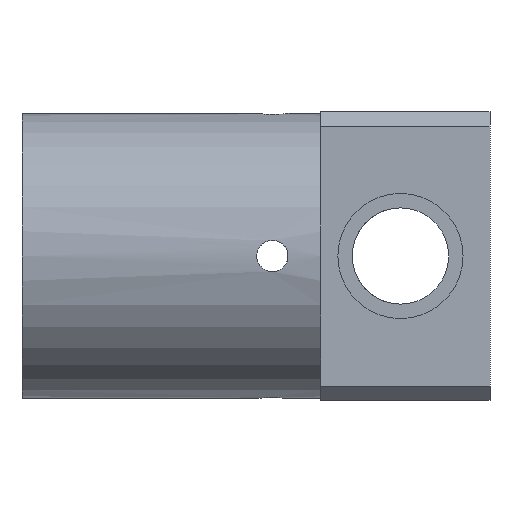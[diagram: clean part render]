
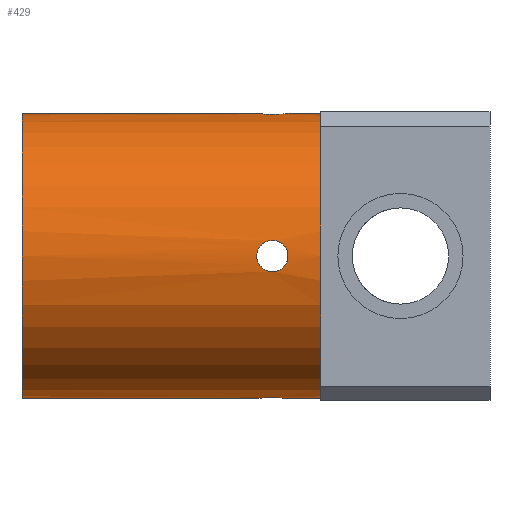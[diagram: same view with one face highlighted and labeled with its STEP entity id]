
A CAD part, left-side view. The second image highlights one B-rep face of the part: STEP entity #429.
In plain terms, the highlighted cylindrical face has radius 14.8 mm (diameter 29.6 mm), a full revolution.
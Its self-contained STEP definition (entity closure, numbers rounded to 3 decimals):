
#86=B_SPLINE_CURVE_WITH_KNOTS('',3,(#629,#630,#631,#632,#633,#634,#635,
#636,#637,#638,#639),.UNSPECIFIED.,.T.,.F.,(1,1,1,1,1,1,1,1,1,1,1,1,1,1,
1),(-0.004,-0.003,-0.001,0.,0.001,
0.003,0.004,0.005,0.006,
0.008,0.009,0.01,0.011,
0.013,0.014),.UNSPECIFIED.);
#87=B_SPLINE_CURVE_WITH_KNOTS('',3,(#641,#642,#643,#644,#645,#646,#647,
#648,#649,#650,#651),.UNSPECIFIED.,.T.,.F.,(1,1,1,1,1,1,1,1,1,1,1,1,1,1,
1),(-0.004,-0.003,-0.001,0.,0.001,
0.003,0.004,0.005,0.006,
0.008,0.009,0.01,0.011,
0.013,0.014),.UNSPECIFIED.);
#88=B_SPLINE_CURVE_WITH_KNOTS('',3,(#653,#654,#655,#656,#657,#658,#659,
#660,#661,#662,#663),.UNSPECIFIED.,.T.,.F.,(1,1,1,1,1,1,1,1,1,1,1,1,1,1,
1),(-0.004,-0.003,-0.001,0.,0.001,
0.003,0.004,0.005,0.006,
0.008,0.009,0.01,0.011,
0.013,0.014),.UNSPECIFIED.);
#89=B_SPLINE_CURVE_WITH_KNOTS('',3,(#665,#666,#667,#668,#669,#670,#671,
#672,#673,#674,#675),.UNSPECIFIED.,.T.,.F.,(1,1,1,1,1,1,1,1,1,1,1,1,1,1,
1),(-0.004,-0.003,-0.001,0.,0.001,
0.003,0.004,0.005,0.006,
0.008,0.009,0.01,0.011,
0.013,0.014),.UNSPECIFIED.);
#98=ORIENTED_EDGE('',*,*,#200,.F.);
#99=ORIENTED_EDGE('',*,*,#201,.F.);
#100=ORIENTED_EDGE('',*,*,#202,.F.);
#101=ORIENTED_EDGE('',*,*,#203,.F.);
#102=ORIENTED_EDGE('',*,*,#204,.F.);
#103=ORIENTED_EDGE('',*,*,#205,.T.);
#200=EDGE_CURVE('',#251,#251,#292,.T.);
#201=EDGE_CURVE('',#252,#252,#86,.T.);
#202=EDGE_CURVE('',#253,#253,#87,.T.);
#203=EDGE_CURVE('',#254,#254,#88,.T.);
#204=EDGE_CURVE('',#255,#255,#89,.T.);
#205=EDGE_CURVE('',#256,#256,#293,.T.);
#251=VERTEX_POINT('',#628);
#252=VERTEX_POINT('',#640);
#253=VERTEX_POINT('',#652);
#254=VERTEX_POINT('',#664);
#255=VERTEX_POINT('',#676);
#256=VERTEX_POINT('',#678);
#292=CIRCLE('',#471,14.8);
#293=CIRCLE('',#472,14.8);
#307=EDGE_LOOP('',(#98));
#308=EDGE_LOOP('',(#99));
#309=EDGE_LOOP('',(#100));
#310=EDGE_LOOP('',(#101));
#311=EDGE_LOOP('',(#102));
#312=EDGE_LOOP('',(#103));
#363=FACE_BOUND('',#307,.T.);
#364=FACE_BOUND('',#308,.T.);
#365=FACE_BOUND('',#309,.T.);
#366=FACE_BOUND('',#310,.T.);
#367=FACE_BOUND('',#311,.T.);
#368=FACE_BOUND('',#312,.T.);
#419=CYLINDRICAL_SURFACE('',#470,14.8);
#429=ADVANCED_FACE('',(#363,#364,#365,#366,#367,#368),#419,.T.);
#470=AXIS2_PLACEMENT_3D('',#626,#515,#516);
#471=AXIS2_PLACEMENT_3D('',#627,#517,#518);
#472=AXIS2_PLACEMENT_3D('',#677,#519,#520);
#515=DIRECTION('',(0.,-1.,0.));
#516=DIRECTION('',(0.,0.,-1.));
#517=DIRECTION('',(0.,-1.,0.));
#518=DIRECTION('',(0.,0.,-1.));
#519=DIRECTION('',(0.,-1.,0.));
#520=DIRECTION('',(0.,0.,-1.));
#626=CARTESIAN_POINT('',(0.,17.6,0.));
#627=CARTESIAN_POINT('',(0.,17.6,0.));
#628=CARTESIAN_POINT('',(0.,17.6,-14.8));
#629=CARTESIAN_POINT('',(14.756,23.875,1.272));
#630=CARTESIAN_POINT('',(14.688,22.6,1.801));
#631=CARTESIAN_POINT('',(14.755,21.326,1.273));
#632=CARTESIAN_POINT('',(14.822,20.799,0.001));
#633=CARTESIAN_POINT('',(14.755,21.326,-1.273));
#634=CARTESIAN_POINT('',(14.688,22.6,-1.801));
#635=CARTESIAN_POINT('',(14.755,23.872,-1.275));
#636=CARTESIAN_POINT('',(14.822,24.401,-0.002));
#637=CARTESIAN_POINT('',(14.756,23.875,1.272));
#638=CARTESIAN_POINT('',(14.688,22.6,1.801));
#639=CARTESIAN_POINT('',(14.755,21.326,1.273));
#640=CARTESIAN_POINT('',(14.711,22.6,1.625));
#641=CARTESIAN_POINT('',(-1.272,23.875,14.756));
#642=CARTESIAN_POINT('',(-1.801,22.6,14.688));
#643=CARTESIAN_POINT('',(-1.273,21.326,14.755));
#644=CARTESIAN_POINT('',(-0.001,20.799,14.822));
#645=CARTESIAN_POINT('',(1.273,21.326,14.755));
#646=CARTESIAN_POINT('',(1.801,22.6,14.688));
#647=CARTESIAN_POINT('',(1.275,23.872,14.755));
#648=CARTESIAN_POINT('',(0.002,24.401,14.822));
#649=CARTESIAN_POINT('',(-1.272,23.875,14.756));
#650=CARTESIAN_POINT('',(-1.801,22.6,14.688));
#651=CARTESIAN_POINT('',(-1.273,21.326,14.755));
#652=CARTESIAN_POINT('',(-1.625,22.6,14.711));
#653=CARTESIAN_POINT('',(-1.275,23.872,-14.755));
#654=CARTESIAN_POINT('',(0.,24.401,-14.822));
#655=CARTESIAN_POINT('',(1.274,23.873,-14.755));
#656=CARTESIAN_POINT('',(1.801,22.601,-14.688));
#657=CARTESIAN_POINT('',(1.274,21.327,-14.755));
#658=CARTESIAN_POINT('',(0.,20.799,-14.822));
#659=CARTESIAN_POINT('',(-1.272,21.325,-14.756));
#660=CARTESIAN_POINT('',(-1.801,22.598,-14.688));
#661=CARTESIAN_POINT('',(-1.275,23.872,-14.755));
#662=CARTESIAN_POINT('',(0.,24.401,-14.822));
#663=CARTESIAN_POINT('',(1.274,23.873,-14.755));
#664=CARTESIAN_POINT('',(0.,24.225,-14.8));
#665=CARTESIAN_POINT('',(-14.756,21.325,1.272));
#666=CARTESIAN_POINT('',(-14.688,22.6,1.801));
#667=CARTESIAN_POINT('',(-14.755,23.874,1.273));
#668=CARTESIAN_POINT('',(-14.822,24.401,0.001));
#669=CARTESIAN_POINT('',(-14.755,23.874,-1.273));
#670=CARTESIAN_POINT('',(-14.688,22.6,-1.801));
#671=CARTESIAN_POINT('',(-14.755,21.328,-1.275));
#672=CARTESIAN_POINT('',(-14.822,20.799,-0.002));
#673=CARTESIAN_POINT('',(-14.756,21.325,1.272));
#674=CARTESIAN_POINT('',(-14.688,22.6,1.801));
#675=CARTESIAN_POINT('',(-14.755,23.874,1.273));
#676=CARTESIAN_POINT('',(-14.711,22.6,1.625));
#677=CARTESIAN_POINT('',(0.,48.6,0.));
#678=CARTESIAN_POINT('',(0.,48.6,-14.8));
